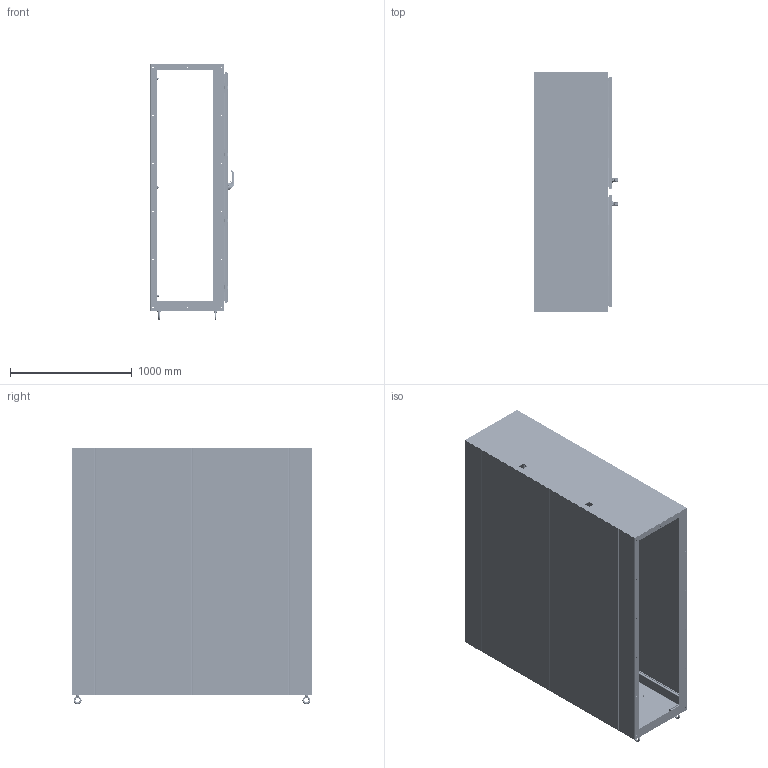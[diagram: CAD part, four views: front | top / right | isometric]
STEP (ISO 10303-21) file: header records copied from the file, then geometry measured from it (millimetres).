
FILE_DESCRIPTION((''),'2;1');
FILE_NAME('MODEL-437_ASM','2023-11-29T10:34:52',('JoelB'),('SAGINAW CONTROL & ENGINEERING'),'CREO PARAMETRIC BY PTC INC, 2021284','CREO PARAMETRIC BY PTC INC, 2021284','');
FILE_SCHEMA(('AUTOMOTIVE_DESIGN { 1 0 10303 214 1 1 1 1 }'));
Length unit declared in the file: inch
Products named in the file (93): MODEL-437-L-SD; MODEL-437-TP; MODEL-437-R-SD; MODEL-437-BTM; MODEL-437-RH-DR; 100837; 100957_HANDLE; 100957_HANDLE_INSERT; 100957_SHAFT_CAM; 100957_ADAPTER_CAM; 100957_NUT_CAM; 100957_BASE; 100957_O-RING; 100957_WASHER_SEALING; 100957_NUT_MOUNTING_LARGE; 100957_NUT_MOUNTING_SMALL; 100957_SCREW_SMALL; 100957_PADLOCK_CATCH; 100957_STOP_CAM; 100957_ASM; 102236; 100030; 102236_ASM; MODEL-437-ROD-RH-UPR; 128146; 128145; 128144; 102482; MODEL-437-ROD-RH-UPR_ASM; 128143; 100882; 112504; MODEL-437-ROD-RH-LWR; MODEL-437-ROD-RH-LWR_ASM; MODEL-437-PR-GSKT-RH; 128257; 128257_ASM; 126393; 102483; 101369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
Assembly tree (233 placements, depth 4):
  MODEL-437_ASM
    MODEL-437-L-SD
    MODEL-437-TP
    MODEL-437-R-SD
    MODEL-437-BTM
    MODEL-437-RH-DOOR-ASSY_ASM
      MODEL-437-RH-DR
      100837  x3
      100957_ASM
        100957_HANDLE
        100957_HANDLE_INSERT
        100957_SHAFT_CAM
        100957_ADAPTER_CAM
        100957_NUT_CAM
        100957_BASE
        100957_O-RING
        100957_WASHER_SEALING
        100957_NUT_MOUNTING_LARGE
        100957_NUT_MOUNTING_SMALL
        100957_SCREW_SMALL
        100957_PADLOCK_CATCH
        100957_STOP_CAM
      102236_ASM
        102236
        100030  x2
      MODEL-437-ROD-RH-UPR_ASM
        MODEL-437-ROD-RH-UPR
        128146
        128145
        128144
        102482  x2
      128143  x2
      100882  x10
      112504  x2
      MODEL-437-ROD-RH-LWR_ASM
        MODEL-437-ROD-RH-LWR
        128146
        128145
        128144
        102482  x2
      MODEL-437-PR-GSKT-RH
      128257_ASM  x4
        128257
      126393  x4
      102483  x4
      101369_ASM  x4
        101369
        101369-STUD
      101221  x4
    MODEL-437-LH-DOOR-ASSY_ASM
      MODEL-437-LH-DR
      100837  x3
      100957_ASM
        100957_HANDLE
        100957_HANDLE_INSERT
        100957_SHAFT_CAM
        100957_ADAPTER_CAM
        100957_NUT_CAM
        100957_BASE
        100957_O-RING
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Bounding box: 686.97 x 1974.85 x 2106.8 mm (x, y, z)
Volume: 46960398.8 mm3; surface area: 33570694.6 mm2
Topology: 266 solids, 266 shells, 23496 faces, 60138 edges, 37331 vertices
Faces by surface type: plane 8135, cylinder 6709, bspline 4711, torus 1701, cone 1241, sphere 678, extrusion 321
Entity records: 510813 total; most frequent: CARTESIAN_POINT 218656, ORIENTED_EDGE 43098, DIRECTION 41360, PRESENTATION_STYLE_ASSIGNMENT 22862, STYLED_ITEM 22722, CURVE_STYLE 21549, EDGE_CURVE 21549, AXIS2_PLACEMENT_3D 15393
